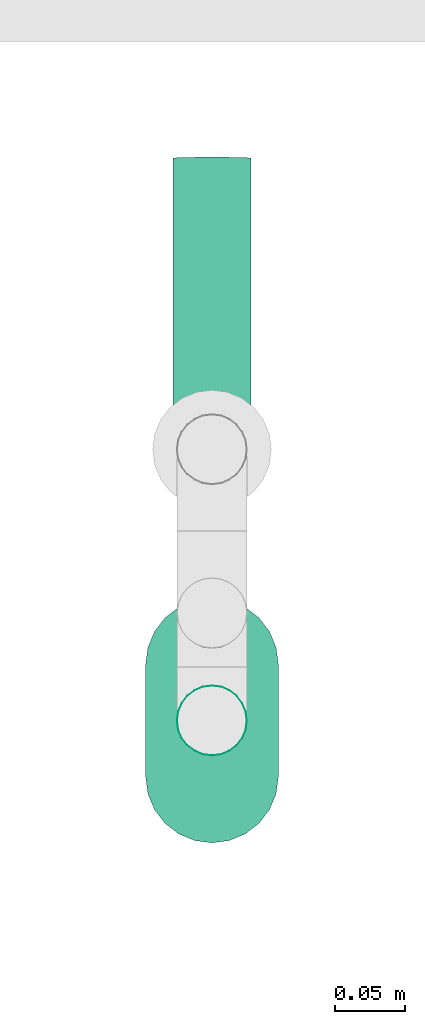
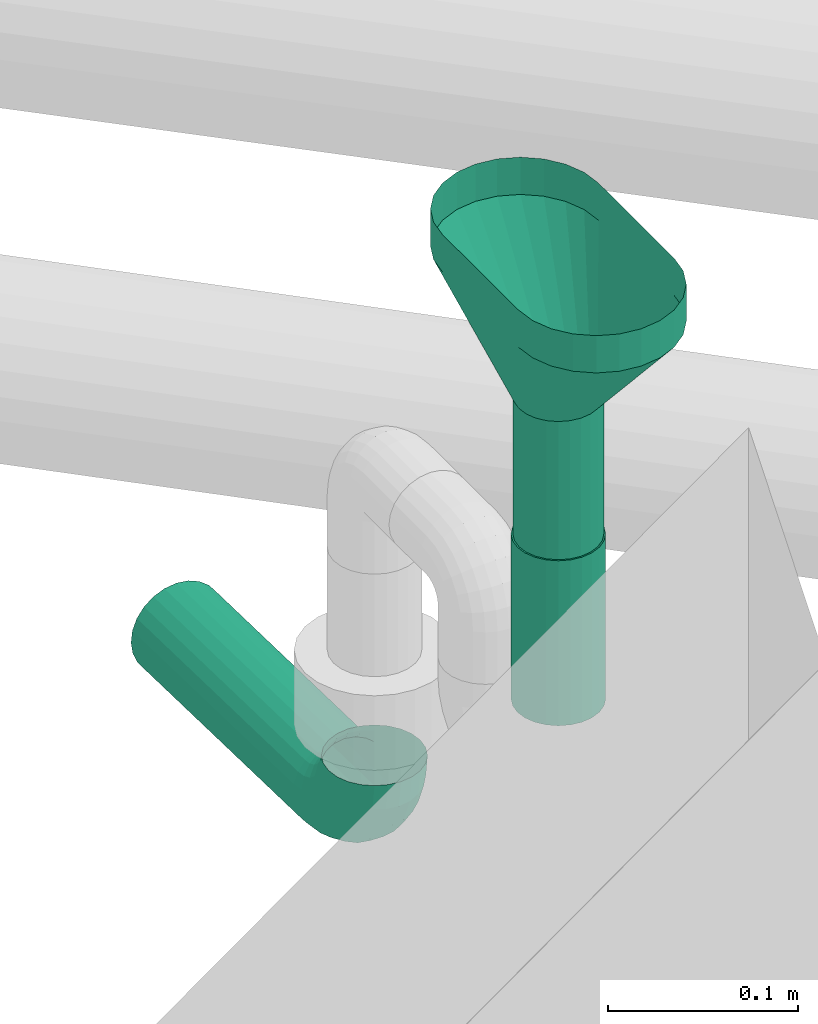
# One storey, part 297 of 374: 2 flow fittings, 1 flow segment.
"""IFC2X3 building model written with IfcOpenShell, lengths in metres."""

from ifc_helpers import new_model, si_unit, direction, origin, place, context, subcontext, project, spatial, open_shell, surface_model, source, transform, mapped, element, save


model = new_model("IFC2X3")

# Units and contexts
model_context = context("Model", 3, precision=1e-05, world=origin(), true_north=direction((-0.4480736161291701, 0.8939966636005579)))
body_context = subcontext(model_context, "Body", "Model", "MODEL_VIEW")
ifc_project = project(units=[si_unit("LENGTHUNIT", "METRE"), si_unit("AREAUNIT", "SQUARE_METRE"), si_unit("VOLUMEUNIT", "CUBIC_METRE"), si_unit("PLANEANGLEUNIT", "RADIAN"), si_unit("THERMODYNAMICTEMPERATUREUNIT", "KELVIN"), si_unit("MASSUNIT", "GRAM", prefix="KILO"), si_unit("TIMEUNIT", "SECOND")], contexts=[model_context])

# Site, building, storey
site_placement = place(None, origin())
site = spatial("IfcSite", under=ifc_project, at=site_placement, Name="Site 1", CompositionType="ELEMENT")
building_placement = place(site_placement, origin())
building = spatial("IfcBuilding", under=site, at=building_placement, Name="Undefined", CompositionType="ELEMENT")
storey_placement = place(building_placement, origin())
storey = spatial("IfcBuildingStorey", under=building, at=storey_placement, Name="Rez de chauss\x8ee", CompositionType="ELEMENT", Elevation=0.0)

# Flow fittings
shared_shape_1 = source(origin(), body_context, "Body", "SurfaceModel", [
    surface_model("IfcFaceBasedSurfaceModel", [(0.0, 0.007309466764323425, 0.0), (0.0, 0.0, 0.0), (0.1700000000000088, 3.552713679e-15, 0.0), (0.17000000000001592, 0.007309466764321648, 0.0), (0.0, -0.007060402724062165, -0.0018918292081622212), (0.17000000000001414, -0.007060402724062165, -0.0018918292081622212), (0.0, -0.013390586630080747, -0.00554656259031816), (0.17000000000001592, -0.013390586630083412, -0.005546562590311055), (0.0, -0.018559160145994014, -0.010715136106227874), (0.17000000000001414, -0.018559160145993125, -0.010715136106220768), (0.0, -0.022213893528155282, -0.017045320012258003), (0.17000000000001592, -0.022213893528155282, -0.017045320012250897), (0.0, -0.02410572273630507, -0.02410572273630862), (0.17000000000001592, -0.02410572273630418, -0.02410572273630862), (0.0, -0.024105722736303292, -0.03141518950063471), (0.17000000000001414, -0.02410572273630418, -0.031415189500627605), (0.0, -0.022213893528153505, -0.03847559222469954), (0.17000000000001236, -0.022213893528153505, -0.038475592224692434), (0.0, -0.01855916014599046, -0.04480577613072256), (0.17000000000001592, -0.01855916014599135, -0.04480577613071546), (0.0, -0.01339058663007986, -0.04997434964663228), (0.17000000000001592, -0.013390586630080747, -0.04997434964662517), (0.0, -0.007060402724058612, -0.05362908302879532), (0.17000000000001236, -0.007060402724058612, -0.05362908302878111), (0.0, 2.664535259e-15, -0.05552091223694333), (0.17000000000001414, 2.664535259e-15, -0.05552091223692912), (0.0, 0.007309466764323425, -0.05552091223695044), (0.17000000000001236, 0.007309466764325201, -0.05552091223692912), (0.0, 0.014369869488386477, -0.053629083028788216), (0.17000000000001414, 0.014369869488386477, -0.05362908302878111), (0.0, 0.02070005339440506, -0.04997434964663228), (0.17000000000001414, 0.020700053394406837, -0.04997434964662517), (0.0, 0.025868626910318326, -0.04480577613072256), (0.17000000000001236, 0.025868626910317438, -0.04480577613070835), (0.0, 0.029523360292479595, -0.038475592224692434), (0.17000000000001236, 0.029523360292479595, -0.03847559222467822), (0.0, 0.03141518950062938, -0.031415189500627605), (0.17000000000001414, 0.03141518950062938, -0.0314151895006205), (0.0, 0.031415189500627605, -0.024105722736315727), (0.17000000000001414, 0.03141518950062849, -0.024105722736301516), (0.0, 0.029523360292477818, -0.017045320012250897), (0.17000000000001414, 0.029523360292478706, -0.017045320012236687), (0.0, 0.025868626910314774, -0.010715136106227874), (0.17000000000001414, 0.025868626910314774, -0.010715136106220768), (0.0, 0.020700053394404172, -0.00554656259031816), (0.17000000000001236, 0.02070005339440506, -0.00554656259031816), (0.0, 0.014369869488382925, -0.0018918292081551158), (0.17000000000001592, 0.014369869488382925, -0.0018918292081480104), (0.1869481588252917, -0.021930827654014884, -0.031701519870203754), (0.18719106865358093, -0.021899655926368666, -0.024396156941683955), (0.20277929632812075, -0.015549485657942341, -0.03254163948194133), (0.2032491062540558, -0.015426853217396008, -0.0252483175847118), (0.21645001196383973, -0.005382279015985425, -0.033880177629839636), (0.21711575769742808, -0.0051139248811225, -0.02660604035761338), (0.22705929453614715, 0.007900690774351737, -0.03562891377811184), (0.2278770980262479, 0.008359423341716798, -0.02837984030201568), (0.2339079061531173, 0.023423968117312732, -0.03767259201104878), (0.2348238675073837, 0.024105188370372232, -0.030452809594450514), (0.23654446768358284, 0.04016444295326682, -0.039876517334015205), (0.2374982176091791, 0.041085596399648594, -0.03268832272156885), (0.18623598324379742, -0.020130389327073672, -0.03874989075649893), (0.2014018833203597, -0.014017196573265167, -0.03955470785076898), (0.2144981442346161, -0.004277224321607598, -0.040836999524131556), (0.2246616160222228, 0.008447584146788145, -0.04251225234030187), (0.23122244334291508, 0.023318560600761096, -0.04447005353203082), (0.23374821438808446, 0.03935558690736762, -0.04658136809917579), (0.1851030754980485, -0.016621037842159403, -0.045060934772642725), (0.1992107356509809, -0.010934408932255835, -0.04580959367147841), (0.2113931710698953, -0.0018740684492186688, -0.04700241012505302), (0.22084746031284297, 0.00996283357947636, -0.04856076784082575), (0.22695048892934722, 0.023796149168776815, -0.05038195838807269), (0.2293000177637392, 0.038714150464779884, -0.05234595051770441), (0.18362664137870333, -0.0116419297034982, -0.05020456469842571), (0.19635517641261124, -0.0065112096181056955, -0.05088003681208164), (0.20734669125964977, 0.0016634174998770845, -0.0519562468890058), (0.21587675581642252, 0.01234317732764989, -0.05336226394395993), (0.2213831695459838, 0.024824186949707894, -0.05500542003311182), (0.2235030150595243, 0.03828384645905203, -0.05677741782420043), (0.18190729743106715, -0.005532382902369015, -0.05383025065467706), (0.19302980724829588, -0.0010490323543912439, -0.05442049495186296), (0.20263446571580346, 0.006094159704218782, -0.05536091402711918), (0.21008824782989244, 0.01542639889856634, -0.056589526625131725), (0.2148998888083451, 0.026332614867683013, -0.05802535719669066), (0.2167522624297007, 0.03809399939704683, -0.05957377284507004), (0.18006221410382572, 0.0012912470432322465, -0.05569090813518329), (0.1894612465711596, 0.005079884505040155, -0.056189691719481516), (0.19757762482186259, 0.011116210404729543, -0.056984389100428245), (0.20387641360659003, 0.019002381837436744, -0.058022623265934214), (0.2079424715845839, 0.028218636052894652, -0.05923596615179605), (0.20950781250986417, 0.03815754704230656, -0.06054444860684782), (0.17821713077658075, 0.008363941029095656, -0.05565973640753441), (0.18589268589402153, 0.01145786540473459, -0.05606705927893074), (0.19252078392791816, 0.016387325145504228, -0.05671603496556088), (0.19766457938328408, 0.022827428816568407, -0.05756389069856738), (0.2009850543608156, 0.03035372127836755, -0.05855474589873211), (0.2022633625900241, 0.03847015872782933, -0.059623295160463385), (0.17649778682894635, 0.015203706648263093, -0.05373885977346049), (0.18256731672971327, 0.017650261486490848, -0.0540609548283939), (0.18780855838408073, 0.02154828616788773, -0.0545741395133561), (0.19187607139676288, 0.026640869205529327, -0.055244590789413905), (0.19450177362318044, 0.03259236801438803, -0.05602812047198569), (0.19551260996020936, 0.0390105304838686, -0.05687308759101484), (0.17502135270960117, 0.02134442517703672, -0.05005918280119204), (0.17971175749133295, 0.023235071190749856, -0.05030809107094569), (0.18376207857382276, 0.026247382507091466, -0.05070466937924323), (0.18690536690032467, 0.03018282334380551, -0.05122277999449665), (0.18893445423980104, 0.03478201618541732, -0.05182827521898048), (0.18971560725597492, 0.0397418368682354, -0.05248124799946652), (0.17388844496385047, 0.02636761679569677, -0.04487146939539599), (0.17752060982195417, 0.02783169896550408, -0.04506421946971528), (0.18065710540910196, 0.0301643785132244, -0.04537132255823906), (0.18309121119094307, 0.03321191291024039, -0.04577253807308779), (0.18466249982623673, 0.036773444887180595, -0.046241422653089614), (0.18526741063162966, 0.04061424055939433, -0.0467470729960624), (0.1731762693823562, 0.029930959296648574, -0.03852925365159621), (0.17614319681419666, 0.031126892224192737, -0.03868670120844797), (0.1787052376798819, 0.033032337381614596, -0.03893755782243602), (0.18069353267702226, 0.03552171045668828, -0.03926529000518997), (0.1819770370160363, 0.03843094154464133, -0.039648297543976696), (0.1824711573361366, 0.04156828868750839, -0.04006133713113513), (0.17293335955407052, 0.031791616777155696, -0.0314647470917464), (0.17567338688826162, 0.032896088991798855, -0.03161015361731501), (0.17803949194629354, 0.03465581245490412, -0.03184182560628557), (0.17987572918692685, 0.03695480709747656, -0.03214449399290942), (0.18106107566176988, 0.03964155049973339, -0.03249821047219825), (0.18151740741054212, 0.04253896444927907, -0.03287966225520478), (0.17317626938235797, 0.03182278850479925, -0.0241593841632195), (0.17614319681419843, 0.033018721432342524, -0.024316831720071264), (0.17870523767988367, 0.03492416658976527, -0.024567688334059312), (0.18069353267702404, 0.037413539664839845, -0.02489542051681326), (0.18197703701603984, 0.04032277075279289, -0.02527842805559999), (0.18247115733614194, 0.04346011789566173, -0.025691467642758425), (0.17388844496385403, 0.030022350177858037, -0.017111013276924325), (0.17752060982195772, 0.031486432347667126, -0.017303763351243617), (0.18065710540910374, 0.033819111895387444, -0.017610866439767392), (0.1830912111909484, 0.03686664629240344, -0.01801208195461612), (0.18466249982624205, 0.04042817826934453, -0.01848096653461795), (0.18526741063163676, 0.04426897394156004, -0.018986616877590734), (0.17502135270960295, 0.02651299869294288, -0.010799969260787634), (0.17971175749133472, 0.028403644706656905, -0.01104887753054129), (0.18376207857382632, 0.031415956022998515, -0.01144545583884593), (0.18690536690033, 0.035351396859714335, -0.011963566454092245), (0.18893445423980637, 0.03995058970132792, -0.012569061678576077), (0.18971560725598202, 0.04491041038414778, -0.013222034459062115), (0.17649778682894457, 0.021533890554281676, -0.00565633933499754), (0.18256731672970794, 0.023980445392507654, -0.005978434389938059), (0.1878085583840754, 0.02787847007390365, -0.006491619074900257), (0.19187607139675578, 0.032971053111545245, -0.007162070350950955), (0.19450177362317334, 0.03892255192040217, -0.007945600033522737), (0.19551260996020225, 0.045340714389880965, -0.008790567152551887), (0.17821713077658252, 0.015424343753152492, -0.0020306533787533), (0.18589268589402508, 0.018518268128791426, -0.0024379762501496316), (0.1925207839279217, 0.023447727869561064, -0.0030869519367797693), (0.19766457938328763, 0.029887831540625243, -0.003934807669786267), (0.20098505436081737, 0.037414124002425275, -0.0049256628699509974), (0.20226336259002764, 0.04553056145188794, -0.005994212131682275), (0.18006221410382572, 0.00860071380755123, -0.0001699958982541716), (0.1894612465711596, 0.012389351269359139, -0.0006687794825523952), (0.1975776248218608, 0.018425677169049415, -0.0014634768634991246), (0.20387641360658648, 0.02631184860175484, -0.0025017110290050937), (0.20794247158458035, 0.03552810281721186, -0.003715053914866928), (0.2095078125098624, 0.04546701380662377, -0.005023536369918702), (0.18190729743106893, 0.0015280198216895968, -0.00020116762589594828), (0.19302980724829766, 0.006011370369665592, -0.0007914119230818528), (0.20263446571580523, 0.013154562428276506, -0.001731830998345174), (0.21008824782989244, 0.022486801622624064, -0.002960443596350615), (0.2148998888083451, 0.03339301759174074, -0.004396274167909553), (0.21675226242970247, 0.04515440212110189, -0.005944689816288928), (0.18362664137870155, -0.005311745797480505, -0.0021220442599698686), (0.1963551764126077, -0.00018102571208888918, -0.002797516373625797), (0.20734669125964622, 0.007993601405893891, -0.003873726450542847), (0.21587675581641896, 0.018673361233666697, -0.005279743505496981), (0.22138316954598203, 0.031154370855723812, -0.006922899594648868), (0.22350301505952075, 0.04461403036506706, -0.008694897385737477), (0.18510307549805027, -0.011452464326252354, -0.005801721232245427), (0.19921073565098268, -0.005765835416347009, -0.006550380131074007), (0.21139317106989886, 0.0032945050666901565, -0.007743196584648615), (0.2208474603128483, 0.015131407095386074, -0.009301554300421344), (0.22695048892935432, 0.028964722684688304, -0.011122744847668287), (0.2293000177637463, 0.04388272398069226, -0.013086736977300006), (0.18623598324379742, -0.016475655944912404, -0.010989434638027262), (0.20140188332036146, -0.010362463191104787, -0.011794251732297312), (0.2144981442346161, -0.0006224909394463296, -0.01307654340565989), (0.22466161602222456, 0.012102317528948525, -0.01475179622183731), (0.23122244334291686, 0.026973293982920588, -0.016709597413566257), (0.23374821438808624, 0.043010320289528, -0.01882091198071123), (0.1869481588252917, -0.020038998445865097, -0.017331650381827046), (0.20277929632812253, -0.013657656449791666, -0.018171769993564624), (0.2164500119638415, -0.0034904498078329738, -0.01951030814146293), (0.22705929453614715, 0.009792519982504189, -0.02125904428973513), (0.23390790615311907, 0.025315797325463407, -0.02330272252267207), (0.23654446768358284, 0.042056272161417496, -0.025506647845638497)], [open_shell([[[0, 1, 2, 3]], [[1, 4, 5, 2]], [[4, 6, 7, 5]], [[6, 8, 9, 7]], [[8, 10, 11, 9]], [[10, 12, 13, 11]], [[12, 14, 15, 13]], [[14, 16, 17, 15]], [[16, 18, 19, 17]], [[18, 20, 21, 19]], [[20, 22, 23, 21]], [[22, 24, 25, 23]], [[24, 26, 27, 25]], [[26, 28, 29, 27]], [[28, 30, 31, 29]], [[30, 32, 33, 31]], [[32, 34, 35, 33]], [[34, 36, 37, 35]], [[36, 38, 39, 37]], [[38, 40, 41, 39]], [[40, 42, 43, 41]], [[42, 44, 45, 43]], [[44, 46, 47, 45]], [[46, 0, 3, 47]], [[13, 15, 48, 49]], [[49, 48, 50, 51]], [[51, 50, 52, 53]], [[53, 52, 54, 55]], [[55, 54, 56, 57]], [[57, 56, 58, 59]], [[15, 17, 60, 48]], [[48, 60, 61, 50]], [[50, 61, 62, 52]], [[52, 62, 63, 54]], [[54, 63, 64, 56]], [[56, 64, 65, 58]], [[17, 19, 66, 60]], [[60, 66, 67, 61]], [[61, 67, 68, 62]], [[62, 68, 69, 63]], [[63, 69, 70, 64]], [[64, 70, 71, 65]], [[19, 21, 72, 66]], [[66, 72, 73, 67]], [[67, 73, 74, 68]], [[68, 74, 75, 69]], [[69, 75, 76, 70]], [[70, 76, 77, 71]], [[21, 23, 78, 72]], [[72, 78, 79, 73]], [[73, 79, 80, 74]], [[74, 80, 81, 75]], [[75, 81, 82, 76]], [[76, 82, 83, 77]], [[23, 25, 84, 78]], [[78, 84, 85, 79]], [[79, 85, 86, 80]], [[80, 86, 87, 81]], [[81, 87, 88, 82]], [[82, 88, 89, 83]], [[25, 27, 90, 84]], [[84, 90, 91, 85]], [[85, 91, 92, 86]], [[86, 92, 93, 87]], [[87, 93, 94, 88]], [[88, 94, 95, 89]], [[27, 29, 96, 90]], [[90, 96, 97, 91]], [[91, 97, 98, 92]], [[92, 98, 99, 93]], [[93, 99, 100, 94]], [[94, 100, 101, 95]], [[29, 31, 102, 96]], [[96, 102, 103, 97]], [[97, 103, 104, 98]], [[98, 104, 105, 99]], [[99, 105, 106, 100]], [[100, 106, 107, 101]], [[31, 33, 108, 102]], [[102, 108, 109, 103]], [[103, 109, 110, 104]], [[104, 110, 111, 105]], [[105, 111, 112, 106]], [[106, 112, 113, 107]], [[33, 35, 114, 108]], [[108, 114, 115, 109]], [[109, 115, 116, 110]], [[110, 116, 117, 111]], [[111, 117, 118, 112]], [[112, 118, 119, 113]], [[35, 37, 120, 114]], [[114, 120, 121, 115]], [[115, 121, 122, 116]], [[116, 122, 123, 117]], [[117, 123, 124, 118]], [[118, 124, 125, 119]], [[37, 39, 126, 120]], [[120, 126, 127, 121]], [[121, 127, 128, 122]], [[122, 128, 129, 123]], [[123, 129, 130, 124]], [[124, 130, 131, 125]], [[39, 41, 132, 126]], [[126, 132, 133, 127]], [[127, 133, 134, 128]], [[128, 134, 135, 129]], [[129, 135, 136, 130]], [[130, 136, 137, 131]], [[41, 43, 138, 132]], [[132, 138, 139, 133]], [[133, 139, 140, 134]], [[134, 140, 141, 135]], [[135, 141, 142, 136]], [[136, 142, 143, 137]], [[43, 45, 144, 138]], [[138, 144, 145, 139]], [[139, 145, 146, 140]], [[140, 146, 147, 141]], [[141, 147, 148, 142]], [[142, 148, 149, 143]], [[45, 47, 150, 144]], [[144, 150, 151, 145]], [[145, 151, 152, 146]], [[146, 152, 153, 147]], [[147, 153, 154, 148]], [[148, 154, 155, 149]], [[47, 3, 156, 150]], [[150, 156, 157, 151]], [[151, 157, 158, 152]], [[152, 158, 159, 153]], [[153, 159, 160, 154]], [[154, 160, 161, 155]], [[3, 2, 162, 156]], [[156, 162, 163, 157]], [[157, 163, 164, 158]], [[158, 164, 165, 159]], [[159, 165, 166, 160]], [[160, 166, 167, 161]], [[2, 5, 168, 162]], [[162, 168, 169, 163]], [[163, 169, 170, 164]], [[164, 170, 171, 165]], [[165, 171, 172, 166]], [[166, 172, 173, 167]], [[5, 7, 174, 168]], [[168, 174, 175, 169]], [[169, 175, 176, 170]], [[170, 176, 177, 171]], [[171, 177, 178, 172]], [[172, 178, 179, 173]], [[7, 9, 180, 174]], [[174, 180, 181, 175]], [[175, 181, 182, 176]], [[176, 182, 183, 177]], [[177, 183, 184, 178]], [[178, 184, 185, 179]], [[9, 11, 186, 180]], [[180, 186, 187, 181]], [[181, 187, 188, 182]], [[182, 188, 189, 183]], [[183, 189, 190, 184]], [[184, 190, 191, 185]], [[11, 13, 49, 186]], [[186, 49, 51, 187]], [[187, 51, 53, 188]], [[188, 53, 55, 189]], [[189, 55, 57, 190]], [[190, 57, 59, 191]]])]),
])
flow_fitting_1_placement = place(storey_placement, origin())
element("IfcFlowFitting", 1, at=flow_fitting_1_placement, inside=storey, Name="PE-HD coude 90° à grand rayon", ObjectType="PE-HD coude 90° à grand rayon", context=body_context, shape_type="MappedRepresentation", body=[
    mapped(shared_shape_1, transform((54.964612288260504, 14.102385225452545, 0.0832972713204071), x_axis=(-7.94135998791e-13, -0.9996573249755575, 0.026176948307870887), y_axis=(-0.13052619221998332, 0.025953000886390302, 0.991105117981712), z_axis=(-0.9914448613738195, -0.0034167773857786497, -0.13048146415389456))),
])
shared_shape_2 = source(origin(), body_context, "Body", "SurfaceModel", [
    surface_model("IfcFaceBasedSurfaceModel", [(0.0, 0.006265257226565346, 0.0), (0.0, 0.0, 0.0), (0.08900000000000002, 0.0, 7.105427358e-15), (0.08900000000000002, 0.006265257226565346, 0.0), (0.0, -0.006051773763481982, -0.0016215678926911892), (0.08900000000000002, -0.006051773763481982, -0.0016215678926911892), (0.0, -0.011477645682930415, -0.004754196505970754), (0.08900000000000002, -0.011477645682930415, -0.004754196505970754), (0.0, -0.015907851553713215, -0.009184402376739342), (0.08900000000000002, -0.015907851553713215, -0.009184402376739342), (0.0, -0.019040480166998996, -0.014610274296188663), (0.08900000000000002, -0.019040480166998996, -0.014610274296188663), (0.0, -0.020662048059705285, -0.020662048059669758), (0.08900000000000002, -0.020662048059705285, -0.020662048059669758), (0.0, -0.020662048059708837, -0.026927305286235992), (0.08900000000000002, -0.020662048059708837, -0.026927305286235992), (0.0, -0.01904048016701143, -0.03297907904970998), (0.08900000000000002, -0.01904048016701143, -0.03297907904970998), (0.0, -0.01590785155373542, -0.03840495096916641), (0.08900000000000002, -0.01590785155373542, -0.03840495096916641), (0.0, -0.011477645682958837, -0.04283515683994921), (0.08900000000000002, -0.011477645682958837, -0.04283515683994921), (0.0, -0.006051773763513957, -0.04596778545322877), (0.08900000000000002, -0.006051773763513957, -0.04596778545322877), (0.0, -3.3750779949e-14, -0.04758935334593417), (0.08900000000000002, -3.3750779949e-14, -0.04758935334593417), (0.0, 0.006265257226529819, -0.04758935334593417), (0.08900000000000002, 0.006265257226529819, -0.04758935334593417), (0.0, 0.012317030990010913, -0.04596778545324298), (0.08900000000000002, 0.012317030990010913, -0.04596778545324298), (0.0, 0.017742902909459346, -0.04283515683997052), (0.08900000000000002, 0.017742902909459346, -0.04283515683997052), (0.0, 0.022173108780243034, -0.03840495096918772), (0.08900000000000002, 0.022173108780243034, -0.03840495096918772), (0.0, 0.025305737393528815, -0.0329790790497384), (0.08900000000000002, 0.025305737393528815, -0.0329790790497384), (0.0, 0.026927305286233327, -0.026927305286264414), (0.08900000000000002, 0.026927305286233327, -0.026927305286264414), (0.0, 0.026927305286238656, -0.02066204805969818), (0.08900000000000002, 0.026927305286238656, -0.02066204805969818), (0.0, 0.025305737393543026, -0.014610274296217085), (0.08900000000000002, 0.025305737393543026, -0.014610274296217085), (0.0, 0.02217310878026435, -0.00918440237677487), (0.08900000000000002, 0.02217310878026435, -0.00918440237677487), (0.0, 0.017742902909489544, -0.00475419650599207), (0.08900000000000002, 0.017742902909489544, -0.00475419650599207), (0.0, 0.012317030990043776, -0.0016215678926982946), (0.08900000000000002, 0.012317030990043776, -0.0016215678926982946), (0.16100000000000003, 0.03659042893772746, -0.07610935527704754), (0.16100000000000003, -0.04272515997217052, -0.06566725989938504), (0.18500000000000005, -0.04272515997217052, -0.06566725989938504), (0.18500000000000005, 0.03659042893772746, -0.07610935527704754), (0.18500000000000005, -0.05470262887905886, -0.06245790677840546), (0.16100000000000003, -0.05470262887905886, -0.06245790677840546), (0.18500000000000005, -0.06544133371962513, -0.05625791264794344), (0.16100000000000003, -0.06544133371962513, -0.05625791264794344), (0.18500000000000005, -0.07420944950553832, -0.04748979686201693), (0.16100000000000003, -0.07420944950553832, -0.04748979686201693), (0.18500000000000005, -0.08040944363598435, -0.03675109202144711), (0.16100000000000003, -0.08040944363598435, -0.03675109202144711), (0.18500000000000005, -0.0836187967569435, -0.024773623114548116), (0.16100000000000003, -0.0836187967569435, -0.024773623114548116), (0.18500000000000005, -0.08361879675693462, -0.012373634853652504), (0.16100000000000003, -0.08361879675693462, -0.012373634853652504), (0.18500000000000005, -0.08040944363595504, -0.00039616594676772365), (0.16100000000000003, -0.08040944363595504, -0.00039616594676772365), (0.18500000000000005, -0.07420944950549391, 0.010342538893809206), (0.16100000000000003, -0.07420944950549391, 0.010342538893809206), (0.18500000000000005, -0.06544133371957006, 0.0191106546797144), (0.16100000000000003, -0.06544133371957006, 0.0191106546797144), (0.18500000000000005, -0.054702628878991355, 0.025310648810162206), (0.16100000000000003, -0.054702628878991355, 0.025310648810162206), (0.18500000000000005, -0.042725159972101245, 0.02852000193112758), (0.16100000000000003, -0.042725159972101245, 0.02852000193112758), (0.18500000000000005, -0.030325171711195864, 0.028520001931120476), (0.16100000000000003, -0.030325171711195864, 0.028520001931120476), (0.16100000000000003, 0.04899041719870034, 0.01807790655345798), (0.18500000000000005, 0.04899041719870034, 0.01807790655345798), (0.18500000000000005, 0.060967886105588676, 0.014868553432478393), (0.16100000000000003, 0.060967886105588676, 0.014868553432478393), (0.18500000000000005, 0.07170659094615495, 0.008668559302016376), (0.16100000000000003, 0.07170659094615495, 0.008668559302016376), (0.18500000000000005, 0.08047470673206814, -9.955648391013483e-05), (0.16100000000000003, 0.08047470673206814, -9.955648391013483e-05), (0.18500000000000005, 0.08667470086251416, -0.010838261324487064), (0.16100000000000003, 0.08667470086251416, -0.010838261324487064), (0.18500000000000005, 0.0898840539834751, -0.02281573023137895), (0.16100000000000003, 0.0898840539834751, -0.02281573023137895), (0.18500000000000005, 0.08988405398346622, -0.03521571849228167), (0.16100000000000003, 0.08988405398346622, -0.03521571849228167), (0.18500000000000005, 0.08667470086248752, -0.04719318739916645), (0.16100000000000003, 0.08667470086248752, -0.04719318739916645), (0.18500000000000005, 0.0804747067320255, -0.05793189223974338), (0.16100000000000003, 0.0804747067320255, -0.05793189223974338), (0.18500000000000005, 0.07170659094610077, -0.06670000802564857), (0.16100000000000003, 0.07170659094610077, -0.06670000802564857), (0.18500000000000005, 0.06096788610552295, -0.07290000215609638), (0.16100000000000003, 0.06096788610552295, -0.07290000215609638), (0.18500000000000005, 0.048990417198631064, -0.07610935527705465), (0.16100000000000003, 0.048990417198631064, -0.07610935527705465)], [open_shell([[[0, 1, 2, 3]], [[1, 4, 5, 2]], [[4, 6, 7, 5]], [[6, 8, 9, 7]], [[8, 10, 11, 9]], [[10, 12, 13, 11]], [[12, 14, 15, 13]], [[14, 16, 17, 15]], [[16, 18, 19, 17]], [[18, 20, 21, 19]], [[20, 22, 23, 21]], [[22, 24, 25, 23]], [[24, 26, 27, 25]], [[26, 28, 29, 27]], [[28, 30, 31, 29]], [[30, 32, 33, 31]], [[32, 34, 35, 33]], [[34, 36, 37, 35]], [[36, 38, 39, 37]], [[38, 40, 41, 39]], [[40, 42, 43, 41]], [[42, 44, 45, 43]], [[44, 46, 47, 45]], [[46, 0, 3, 47]], [[48, 49, 50, 51]], [[50, 52, 53, 49]], [[52, 54, 55, 53]], [[54, 56, 57, 55]], [[56, 58, 59, 57]], [[58, 60, 61, 59]], [[60, 62, 63, 61]], [[62, 64, 65, 63]], [[64, 66, 67, 65]], [[66, 68, 69, 67]], [[68, 70, 71, 69]], [[70, 72, 73, 71]], [[72, 74, 75, 73]], [[75, 76, 77, 74]], [[77, 78, 79, 76]], [[78, 80, 81, 79]], [[80, 82, 83, 81]], [[82, 84, 85, 83]], [[84, 86, 87, 85]], [[86, 88, 89, 87]], [[88, 90, 91, 89]], [[90, 92, 93, 91]], [[92, 94, 95, 93]], [[94, 96, 97, 95]], [[96, 98, 99, 97]], [[98, 51, 48, 99]], [[76, 79, 3]], [[79, 47, 3]], [[79, 81, 47]], [[81, 45, 47]], [[81, 83, 45]], [[83, 43, 45]], [[83, 85, 43]], [[85, 41, 43]], [[85, 87, 41]], [[87, 39, 41]], [[87, 89, 39]], [[89, 37, 39]], [[89, 91, 37]], [[91, 35, 37]], [[91, 93, 35]], [[93, 33, 35]], [[93, 95, 33]], [[95, 31, 33]], [[95, 97, 31]], [[97, 29, 31]], [[97, 99, 29]], [[99, 27, 29]], [[99, 48, 27]], [[48, 25, 27]], [[49, 23, 25]], [[49, 53, 23]], [[53, 21, 23]], [[53, 55, 21]], [[55, 19, 21]], [[55, 57, 19]], [[57, 17, 19]], [[57, 59, 17]], [[59, 15, 17]], [[59, 61, 15]], [[61, 13, 15]], [[61, 63, 13]], [[63, 11, 13]], [[63, 65, 11]], [[65, 9, 11]], [[65, 67, 9]], [[67, 7, 9]], [[67, 69, 7]], [[69, 5, 7]], [[69, 71, 5]], [[71, 2, 5]], [[71, 73, 2]], [[73, 3, 2]], [[73, 75, 3]], [[48, 25, 49]], [[76, 3, 75]]])]),
])
flow_fitting_2_placement = place(storey_placement, origin())
element("IfcFlowFitting", 2, at=flow_fitting_2_placement, inside=storey, Name="PE-HD Entonnoir ovale, siphonné", ObjectType="PE-HD Entonnoir ovale, siphonné", context=body_context, shape_type="MappedRepresentation", body=[
    mapped(shared_shape_2, transform((54.96847599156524, 13.693934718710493, 0.3948815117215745), x_axis=(0.0, 0.0, 1.0), y_axis=(-0.13052619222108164, 0.9914448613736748, 0.0), z_axis=(-0.9914448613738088, -0.13052619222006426, 0.0))),
])

# Flow segment
shared_shape_3 = source(origin(), body_context, "Body", "SurfaceModel", [
    surface_model("IfcFaceBasedSurfaceModel", [(0.0, 0.006526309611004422, 0.0), (0.0, 0.0, 0.0), (0.10628682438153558, -1.776356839e-15, -7.105427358e-15), (0.10628682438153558, 0.006526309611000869, -7.105427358e-15), (0.0, -0.006303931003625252, -0.0016891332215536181), (0.10628682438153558, -0.006303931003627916, -0.001689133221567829), (0.0, -0.011955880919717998, -0.004952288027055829), (0.10628682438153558, -0.011955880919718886, -0.00495228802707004), (0.0, -0.016570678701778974, -0.009567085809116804), (0.10628682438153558, -0.016570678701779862, -0.009567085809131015), (0.0, -0.019833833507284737, -0.015219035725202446), (0.10628682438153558, -0.019833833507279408, -0.015219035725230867), (0.0, -0.021522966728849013, -0.02152296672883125), (0.10628682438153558, -0.021522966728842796, -0.021522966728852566), (0.0, -0.021522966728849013, -0.028049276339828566), (0.10628682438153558, -0.021522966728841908, -0.028049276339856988), (0.0, -0.019833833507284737, -0.034353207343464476), (0.10628682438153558, -0.01983383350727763, -0.03435320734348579), (0.0, -0.01657067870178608, -0.04000515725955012), (0.10628682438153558, -0.01657067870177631, -0.04000515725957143), (0.0, -0.011955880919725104, -0.0446199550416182), (0.10628682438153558, -0.011955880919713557, -0.04461995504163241), (0.0, -0.00630393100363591, -0.04788310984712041), (0.10628682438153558, -0.0063039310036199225, -0.04788310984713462), (0.0, -1.0658141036e-14, -0.04957224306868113), (0.10628682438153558, 6.217248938e-15, -0.04957224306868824), (0.0, 0.006526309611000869, -0.04957224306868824), (0.10628682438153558, 0.006526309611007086, -0.04957224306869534), (0.0, 0.012830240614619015, -0.047883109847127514), (0.10628682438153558, 0.012830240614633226, -0.047883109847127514), (0.0, 0.018482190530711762, -0.0446199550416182), (0.10628682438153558, 0.018482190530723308, -0.04461995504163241), (0.0, 0.023096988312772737, -0.04000515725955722), (0.10628682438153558, 0.02309698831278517, -0.04000515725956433), (0.0, 0.026360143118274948, -0.03435320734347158), (0.10628682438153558, 0.026360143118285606, -0.03435320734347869), (0.0, 0.028049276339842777, -0.028049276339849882), (0.10628682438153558, 0.028049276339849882, -0.028049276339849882), (0.0, 0.028049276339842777, -0.02152296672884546), (0.10628682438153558, 0.028049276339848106, -0.02152296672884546), (0.0, 0.026360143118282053, -0.015219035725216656), (0.10628682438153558, 0.026360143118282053, -0.015219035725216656), (0.0, 0.023096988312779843, -0.00956708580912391), (0.10628682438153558, 0.02309698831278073, -0.009567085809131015), (0.0, 0.018482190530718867, -0.004952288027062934), (0.10628682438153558, 0.01848219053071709, -0.004952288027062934), (0.0, 0.01283024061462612, -0.0016891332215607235), (0.10628682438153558, 0.012830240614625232, -0.001689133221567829)], [open_shell([[[0, 1, 2, 3]], [[1, 4, 5, 2]], [[4, 6, 7, 5]], [[6, 8, 9, 7]], [[8, 10, 11, 9]], [[10, 12, 13, 11]], [[12, 14, 15, 13]], [[14, 16, 17, 15]], [[16, 18, 19, 17]], [[18, 20, 21, 19]], [[20, 22, 23, 21]], [[22, 24, 25, 23]], [[24, 26, 27, 25]], [[26, 28, 29, 27]], [[28, 30, 31, 29]], [[30, 32, 33, 31]], [[32, 34, 35, 33]], [[34, 36, 37, 35]], [[36, 38, 39, 37]], [[38, 40, 41, 39]], [[40, 42, 43, 41]], [[42, 44, 45, 43]], [[44, 46, 47, 45]], [[46, 0, 3, 47]]])]),
])
flow_segment_placement = place(storey_placement, origin())
element("IfcFlowSegment", 3, at=flow_segment_placement, inside=storey, Name="PE-HD tuyau", ObjectType="PE-HD tuyau", context=body_context, shape_type="MappedRepresentation", body=[
    mapped(shared_shape_3, transform((54.96751006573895, 13.693675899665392, 0.28859468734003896), x_axis=(0.0, 0.0, 1.0), y_axis=(-0.13052619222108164, 0.9914448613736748, 0.0), z_axis=(-0.9914448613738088, -0.13052619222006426, 0.0))),
])

save(model, "model.ifc")
